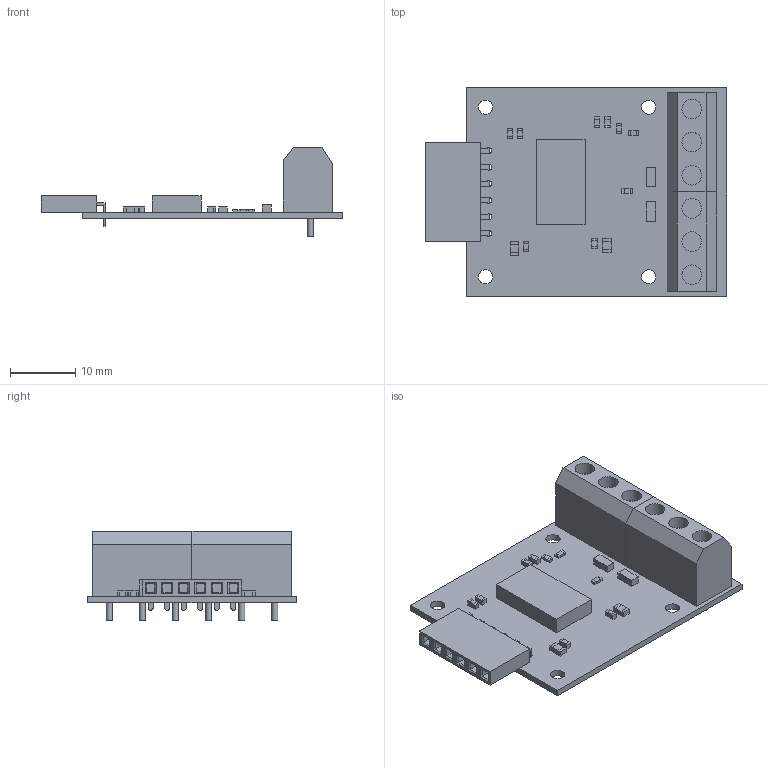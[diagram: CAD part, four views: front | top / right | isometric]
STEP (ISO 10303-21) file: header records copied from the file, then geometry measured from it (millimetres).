
FILE_DESCRIPTION(('Open CASCADE Model'),'2;1');
FILE_NAME('Open CASCADE Shape Model','2024-10-11T15:47:26',('Author'),( 'Open CASCADE'),'Open CASCADE STEP processor 7.5','Open CASCADE 7.5' ,'Unknown');
FILE_SCHEMA(('AUTOMOTIVE_DESIGN { 1 0 10303 214 1 1 1 1 }'));
Length unit declared in the file: millimetre
Products named in the file (43): PCB; Board; Open CASCADE STEP translator 7.5 2.1.1; J1; pinsocket_6SH v2_RGB8421504; R3; 6078815328; Extruded; 6078815168; R2; 6905054688; 6905054528; D2; 6905053328; D1; R1; IC1; 6905055808; C7; 6078816688; 6078816528; C1; C4; C3; C6; C8; 6078815968; 6078816128; 6078816288; C5; C2; Free-Models; TB111-2-3-U-1-1 v3_RGB8421504
Assembly tree (68 placements, depth 4):
  PCB
    Board
      Open CASCADE STEP translator 7.5 2.1.1
    J1
      pinsocket_6SH v2_RGB8421504
    R3
      6078815328  x2
        Extruded
      6078815168
        Extruded
    R2
      6905054688  x2
        Extruded
      6905054528
        Extruded
    D2
      6905053328
        Extruded
    D1
      6905053328
        Extruded
    R1
      6078815328  x2
        Extruded
      6078815168
        Extruded
    IC1
      6905055808
        Extruded
    C7
      6078816688  x2
        Extruded
      6078816528
        Extruded
    C1
      6078816688  x2
        Extruded
      6078816528
        Extruded
    C4
      6078816688  x2
        Extruded
      6078816528
        Extruded
    C3
      6078816688  x2
        Extruded
      6078816528
        Extruded
    C6
      6078816688  x2
        Extruded
      6078816528
        Extruded
    C8
      6078815968
        Extruded
      6078816128
        Extruded
      6078816288
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Bounding box: 46.27 x 32 x 13.8 mm (x, y, z)
Volume: 3695.2 mm3; surface area: 5534.8 mm2
Topology: 40 solids, 40 shells, 434 faces, 930 edges, 612 vertices
Faces by surface type: plane 388, cylinder 46
Full cylindrical faces by diameter (mm): 0.9 x6, 0.95 x6, 1.2 x6, 2.2 x4, 3 x12
Entity records: 7853 total; most frequent: DIRECTION 1247, CARTESIAN_POINT 1219, ORIENTED_EDGE 1098, EDGE_CURVE 549, LINE 475, VECTOR 475, AXIS2_PLACEMENT_3D 386, VERTEX_POINT 358
